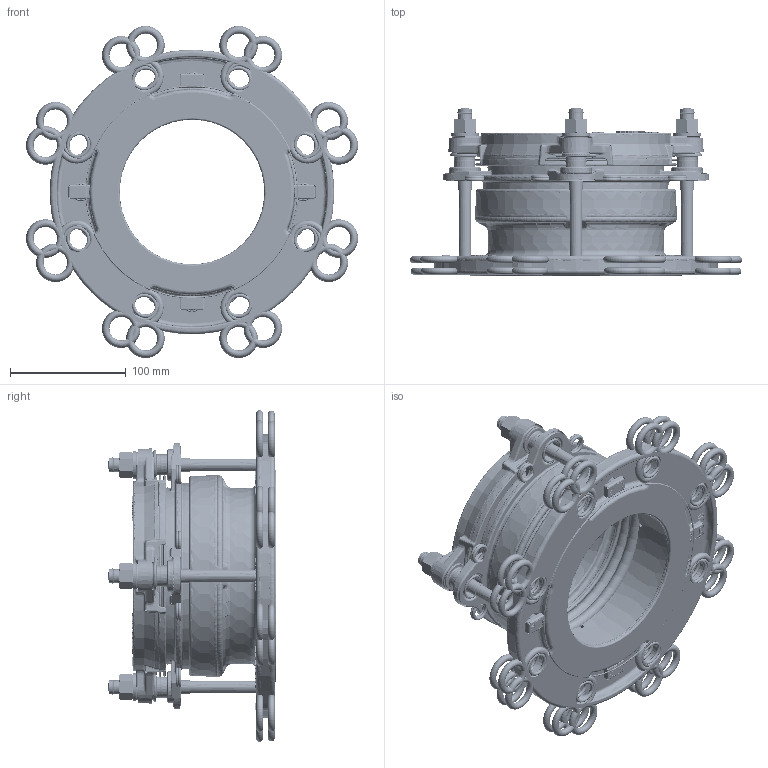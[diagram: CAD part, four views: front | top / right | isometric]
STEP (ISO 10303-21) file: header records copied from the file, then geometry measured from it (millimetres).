
FILE_DESCRIPTION((''),'2;1');
FILE_NAME('13383_6','2014-12-15T',('rburgess'),('Viking Johnson'),'PRO/ENGINEER BY PARAMETRIC TECHNOLOGY CORPORATION, 2006020','PRO/ENGINEER BY PARAMETRIC TECHNOLOGY CORPORATION, 2006020','');
FILE_SCHEMA(('CONFIG_CONTROL_DESIGN'));
Products named in the file (1): 13383_6
Bounding box: 286.87 x 144.9 x 286.87 mm (x, y, z)
Surface area: 1139841.5 mm2 (no closed solid volume)
Topology: 0 solids, 0 shells, 5079 faces, 27323 edges, 26843 vertices
Faces by surface type: bspline 4424, torus 553, sphere 102
Entity records: 382796 total; most frequent: CARTESIAN_POINT 144316, DIRECTION 37476, TRIMMED_CURVE 33522, VECTOR 30878, LINE 30878, DEFINITIONAL_REPRESENTATION 26286, PCURVE 26286, COMPOSITE_CURVE_SEGMENT 26286
